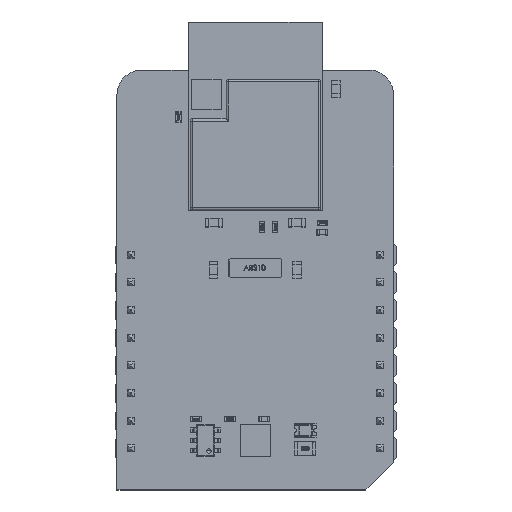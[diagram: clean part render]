
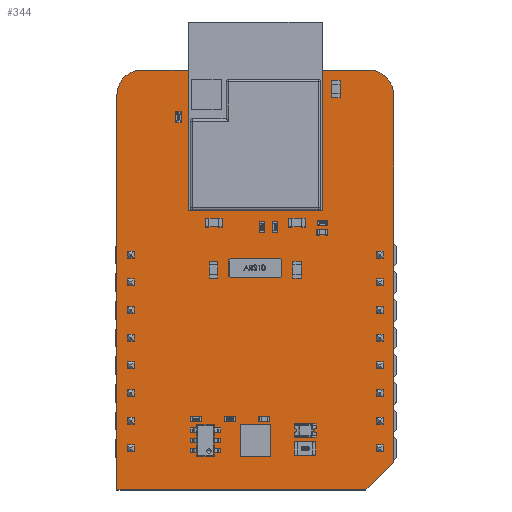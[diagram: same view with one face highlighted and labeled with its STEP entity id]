
A CAD part, top view. The second image highlights one B-rep face of the part: STEP entity #344.
In plain terms, the highlighted planar face has unit normal (0, 0, 1).
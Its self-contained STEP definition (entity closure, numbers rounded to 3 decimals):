
#115 = VERTEX_POINT('',#116);
#116 = CARTESIAN_POINT('',(-1.27,-3.81,0.));
#122 = EDGE_CURVE('',#115,#123,#125,.T.);
#123 = VERTEX_POINT('',#124);
#124 = CARTESIAN_POINT('',(-1.27,32.461,0.));
#125 = LINE('',#126,#127);
#126 = CARTESIAN_POINT('',(-1.27,-3.81,0.));
#127 = VECTOR('',#128,1.);
#128 = DIRECTION('',(0.,1.,0.));
#153 = EDGE_CURVE('',#123,#154,#156,.T.);
#154 = VERTEX_POINT('',#155);
#155 = CARTESIAN_POINT('',(1.016,34.747,0.));
#156 = CIRCLE('',#157,2.286);
#157 = AXIS2_PLACEMENT_3D('',#158,#159,#160);
#158 = CARTESIAN_POINT('',(1.016,32.461,0.));
#159 = DIRECTION('',(0.,0.,-1.));
#160 = DIRECTION('',(-1.,0.,0.));
#186 = EDGE_CURVE('',#154,#187,#189,.T.);
#187 = VERTEX_POINT('',#188);
#188 = CARTESIAN_POINT('',(21.844,34.747,0.));
#189 = LINE('',#190,#191);
#190 = CARTESIAN_POINT('',(1.016,34.747,0.));
#191 = VECTOR('',#192,1.);
#192 = DIRECTION('',(1.,0.,0.));
#217 = EDGE_CURVE('',#187,#218,#220,.T.);
#218 = VERTEX_POINT('',#219);
#219 = CARTESIAN_POINT('',(24.13,32.461,0.));
#220 = CIRCLE('',#221,2.286);
#221 = AXIS2_PLACEMENT_3D('',#222,#223,#224);
#222 = CARTESIAN_POINT('',(21.844,32.461,0.));
#223 = DIRECTION('',(0.,0.,-1.));
#224 = DIRECTION('',(0.,1.,0.));
#250 = EDGE_CURVE('',#218,#251,#253,.T.);
#251 = VERTEX_POINT('',#252);
#252 = CARTESIAN_POINT('',(24.13,-1.27,0.));
#253 = LINE('',#254,#255);
#254 = CARTESIAN_POINT('',(24.13,32.461,0.));
#255 = VECTOR('',#256,1.);
#256 = DIRECTION('',(0.,-1.,0.));
#281 = EDGE_CURVE('',#251,#282,#284,.T.);
#282 = VERTEX_POINT('',#283);
#283 = CARTESIAN_POINT('',(21.59,-3.81,0.));
#284 = LINE('',#285,#286);
#285 = CARTESIAN_POINT('',(24.13,-1.27,0.));
#286 = VECTOR('',#287,1.);
#287 = DIRECTION('',(-0.707,-0.707,0.));
#312 = EDGE_CURVE('',#282,#115,#313,.T.);
#313 = LINE('',#314,#315);
#314 = CARTESIAN_POINT('',(21.59,-3.81,0.));
#315 = VECTOR('',#316,1.);
#316 = DIRECTION('',(-1.,0.,0.));
#344 = ADVANCED_FACE('',(#345),#354,.T.);
#345 = FACE_BOUND('',#346,.F.);
#346 = EDGE_LOOP('',(#347,#348,#349,#350,#351,#352,#353));
#347 = ORIENTED_EDGE('',*,*,#122,.T.);
#348 = ORIENTED_EDGE('',*,*,#153,.T.);
#349 = ORIENTED_EDGE('',*,*,#186,.T.);
#350 = ORIENTED_EDGE('',*,*,#217,.T.);
#351 = ORIENTED_EDGE('',*,*,#250,.T.);
#352 = ORIENTED_EDGE('',*,*,#281,.T.);
#353 = ORIENTED_EDGE('',*,*,#312,.T.);
#354 = PLANE('',#355);
#355 = AXIS2_PLACEMENT_3D('',#356,#357,#358);
#356 = CARTESIAN_POINT('',(-1.27,-3.81,0.));
#357 = DIRECTION('',(0.,0.,1.));
#358 = DIRECTION('',(1.,0.,0.));
